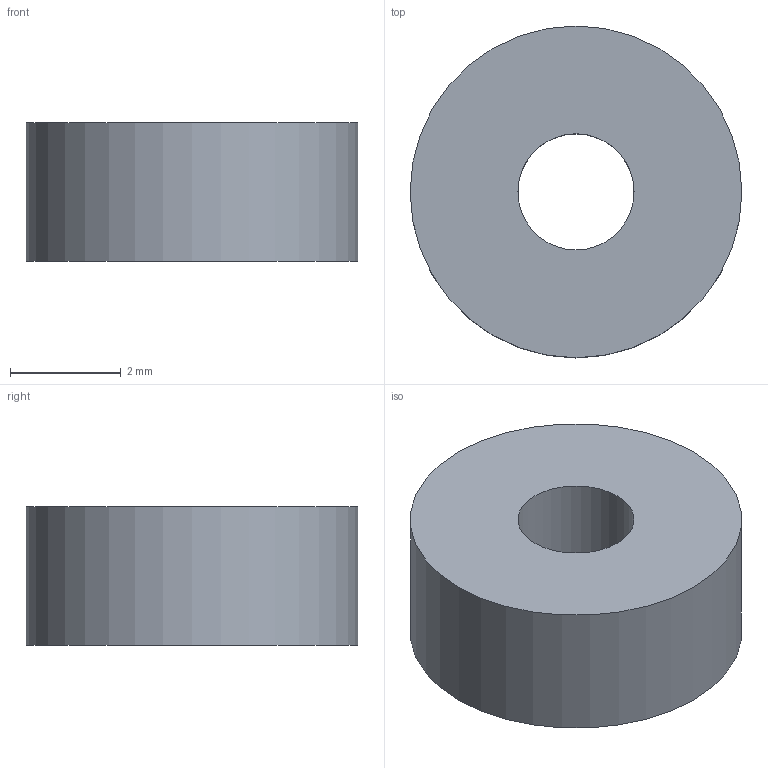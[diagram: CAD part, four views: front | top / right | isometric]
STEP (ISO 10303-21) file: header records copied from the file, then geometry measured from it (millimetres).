
FILE_DESCRIPTION(/* description */ (''),/* implementation_level */ '2;1');
FILE_NAME(/* name */ 'GoFlyPro - Spacer-2x6x2.5mm v8.step',/* time_stamp */ '2024-01-24T15:26:24+01:00',/* author */ (''),/* organization */ (''),/* preprocessor_version */ 'ST-DEVELOPER v20',/* originating_system */ 'Autodesk Translation Framework v12.14.0.127',/* authorisation */ '');
FILE_SCHEMA (('AUTOMOTIVE_DESIGN { 1 0 10303 214 3 1 1 }'));
Length unit declared in the file: millimetre
Products named in the file (1): GoFlyPro - Spacer-2x6x2.5mm
Bounding box: 6 x 6 x 2.5 mm (x, y, z)
Volume: 62 mm3; surface area: 113.2 mm2
Topology: 1 solids, 1 shells, 4 faces, 6 edges, 4 vertices
Faces by surface type: cylinder 2, plane 2
Full cylindrical faces by diameter (mm): 2.1 x1, 6 x1
Entity records: 138 total; most frequent: DIRECTION 20, CARTESIAN_POINT 15, ORIENTED_EDGE 12, AXIS2_PLACEMENT_3D 9, EDGE_LOOP 6, EDGE_CURVE 6, FACE_OUTER_BOUND 4, CIRCLE 4
